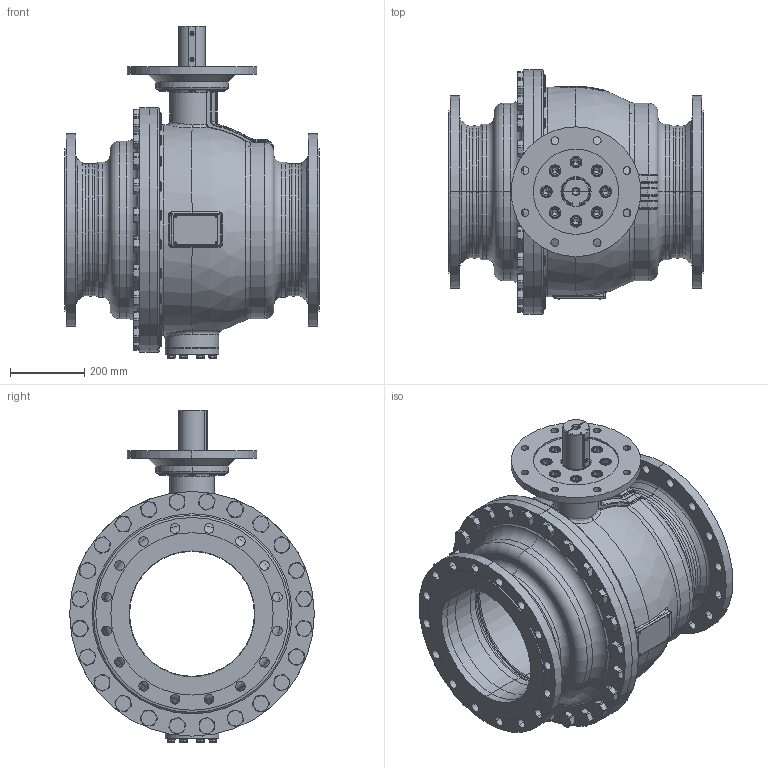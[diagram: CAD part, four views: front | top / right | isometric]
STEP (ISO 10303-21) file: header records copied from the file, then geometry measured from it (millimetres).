
FILE_DESCRIPTION((''),'2;1');
FILE_NAME('KHI-F_350_PN016-F30-P_SW0001','2026-02-05T15:46:57',('fischerkl'),('KLINGER'),'CREO PARAMETRIC BY PTC INC, 2023014','CREO PARAMETRIC BY PTC INC, 2023014','');
FILE_SCHEMA(('CONFIG_CONTROL_DESIGN'));
Products named in the file (1): KHI-F_350_PN016-F30-P_SW0001
Bounding box: 686 x 660 x 895.8 mm (x, y, z)
Volume: 43453179 mm3; surface area: 5921272.7 mm2
Topology: 1 solids, 4 shells, 3414 faces, 8622 edges, 5384 vertices
Faces by surface type: plane 1743, cylinder 799, cone 448, torus 295, bspline 99, sphere 30
Entity records: 144149 total; most frequent: CARTESIAN_POINT 62725, ORIENTED_EDGE 17192, DIRECTION 16862, EDGE_CURVE 8596, AXIS2_PLACEMENT_3D 6429, VERTEX_POINT 5384, VECTOR 4004, LINE 4004
